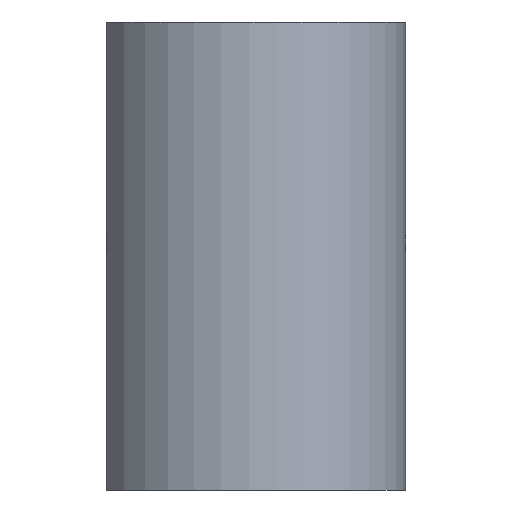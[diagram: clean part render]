
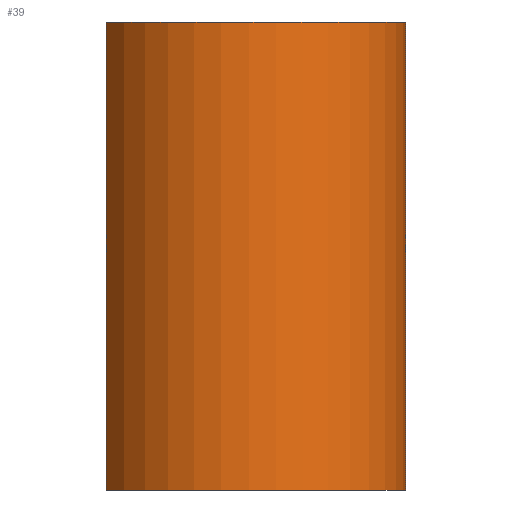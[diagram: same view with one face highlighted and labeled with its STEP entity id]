
A CAD part, left-side view. The second image highlights one B-rep face of the part: STEP entity #39.
In plain terms, the highlighted cylindrical face has radius 3.5 mm (diameter 7 mm), a partial arc.
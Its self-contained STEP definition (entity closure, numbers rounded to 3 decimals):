
#39 = ADVANCED_FACE('',(#40),#55,.T.);
#40 = FACE_BOUND('',#41,.T.);
#41 = EDGE_LOOP('',(#42,#78,#104,#137));
#42 = ORIENTED_EDGE('',*,*,#43,.T.);
#43 = EDGE_CURVE('',#44,#46,#48,.T.);
#44 = VERTEX_POINT('',#45);
#45 = CARTESIAN_POINT('',(-1.96,2.9,0.));
#46 = VERTEX_POINT('',#47);
#47 = CARTESIAN_POINT('',(1.96,2.9,0.));
#48 = SURFACE_CURVE('',#49,(#54,#66),.PCURVE_S1.);
#49 = CIRCLE('',#50,3.5);
#50 = AXIS2_PLACEMENT_3D('',#51,#52,#53);
#51 = CARTESIAN_POINT('',(0.,0.,0.));
#52 = DIRECTION('',(0.,0.,1.));
#53 = DIRECTION('',(-0.56,0.829,0.));
#54 = PCURVE('',#55,#60);
#55 = CYLINDRICAL_SURFACE('',#56,3.5);
#56 = AXIS2_PLACEMENT_3D('',#57,#58,#59);
#57 = CARTESIAN_POINT('',(0.,0.,0.));
#58 = DIRECTION('',(0.,0.,1.));
#59 = DIRECTION('',(1.,0.,-0.));
#60 = DEFINITIONAL_REPRESENTATION('',(#61),#65);
#61 = LINE('',#62,#63);
#62 = CARTESIAN_POINT('',(2.165,0.));
#63 = VECTOR('',#64,1.);
#64 = DIRECTION('',(1.,0.));
#65 = ( GEOMETRIC_REPRESENTATION_CONTEXT(2) 
PARAMETRIC_REPRESENTATION_CONTEXT() REPRESENTATION_CONTEXT('2D SPACE',''
  ) );
#66 = PCURVE('',#67,#72);
#67 = PLANE('',#68);
#68 = AXIS2_PLACEMENT_3D('',#69,#70,#71);
#69 = CARTESIAN_POINT('',(0.,0.,0.));
#70 = DIRECTION('',(0.,0.,1.));
#71 = DIRECTION('',(1.,0.,-0.));
#72 = DEFINITIONAL_REPRESENTATION('',(#73),#77);
#73 = CIRCLE('',#74,3.5);
#74 = AXIS2_PLACEMENT_2D('',#75,#76);
#75 = CARTESIAN_POINT('',(0.,0.));
#76 = DIRECTION('',(-0.56,0.829));
#77 = ( GEOMETRIC_REPRESENTATION_CONTEXT(2) 
PARAMETRIC_REPRESENTATION_CONTEXT() REPRESENTATION_CONTEXT('2D SPACE',''
  ) );
#78 = ORIENTED_EDGE('',*,*,#79,.T.);
#79 = EDGE_CURVE('',#46,#80,#82,.T.);
#80 = VERTEX_POINT('',#81);
#81 = CARTESIAN_POINT('',(1.96,2.9,10.));
#82 = SURFACE_CURVE('',#83,(#87,#93),.PCURVE_S1.);
#83 = LINE('',#84,#85);
#84 = CARTESIAN_POINT('',(1.96,2.9,0.));
#85 = VECTOR('',#86,1.);
#86 = DIRECTION('',(0.,0.,1.));
#87 = PCURVE('',#55,#88);
#88 = DEFINITIONAL_REPRESENTATION('',(#89),#92);
#89 = B_SPLINE_CURVE_WITH_KNOTS('',1,(#90,#91),.UNSPECIFIED.,.F.,.F.,(2,
    2),(0.,10.),.PIECEWISE_BEZIER_KNOTS.);
#90 = CARTESIAN_POINT('',(7.26,0.));
#91 = CARTESIAN_POINT('',(7.26,10.));
#92 = ( GEOMETRIC_REPRESENTATION_CONTEXT(2) 
PARAMETRIC_REPRESENTATION_CONTEXT() REPRESENTATION_CONTEXT('2D SPACE',''
  ) );
#93 = PCURVE('',#94,#99);
#94 = PLANE('',#95);
#95 = AXIS2_PLACEMENT_3D('',#96,#97,#98);
#96 = CARTESIAN_POINT('',(-7.,2.9,-1.));
#97 = DIRECTION('',(-0.,1.,0.));
#98 = DIRECTION('',(0.,0.,1.));
#99 = DEFINITIONAL_REPRESENTATION('',(#100),#103);
#100 = B_SPLINE_CURVE_WITH_KNOTS('',1,(#101,#102),.UNSPECIFIED.,.F.,.F.,
  (2,2),(0.,10.),.PIECEWISE_BEZIER_KNOTS.);
#101 = CARTESIAN_POINT('',(1.,8.96));
#102 = CARTESIAN_POINT('',(11.,8.96));
#103 = ( GEOMETRIC_REPRESENTATION_CONTEXT(2) 
PARAMETRIC_REPRESENTATION_CONTEXT() REPRESENTATION_CONTEXT('2D SPACE',''
  ) );
#104 = ORIENTED_EDGE('',*,*,#105,.T.);
#105 = EDGE_CURVE('',#80,#106,#108,.T.);
#106 = VERTEX_POINT('',#107);
#107 = CARTESIAN_POINT('',(-1.96,2.9,10.));
#108 = SURFACE_CURVE('',#109,(#114,#121),.PCURVE_S1.);
#109 = CIRCLE('',#110,3.5);
#110 = AXIS2_PLACEMENT_3D('',#111,#112,#113);
#111 = CARTESIAN_POINT('',(0.,0.,10.));
#112 = DIRECTION('',(0.,0.,-1.));
#113 = DIRECTION('',(0.56,0.829,0.));
#114 = PCURVE('',#55,#115);
#115 = DEFINITIONAL_REPRESENTATION('',(#116),#120);
#116 = LINE('',#117,#118);
#117 = CARTESIAN_POINT('',(7.26,10.));
#118 = VECTOR('',#119,1.);
#119 = DIRECTION('',(-1.,-0.));
#120 = ( GEOMETRIC_REPRESENTATION_CONTEXT(2) 
PARAMETRIC_REPRESENTATION_CONTEXT() REPRESENTATION_CONTEXT('2D SPACE',''
  ) );
#121 = PCURVE('',#122,#127);
#122 = PLANE('',#123);
#123 = AXIS2_PLACEMENT_3D('',#124,#125,#126);
#124 = CARTESIAN_POINT('',(0.,0.,10.));
#125 = DIRECTION('',(0.,0.,1.));
#126 = DIRECTION('',(1.,0.,-0.));
#127 = DEFINITIONAL_REPRESENTATION('',(#128),#136);
#128 = ( BOUNDED_CURVE() B_SPLINE_CURVE(2,(#129,#130,#131,#132,#133,#134
,#135),.UNSPECIFIED.,.T.,.F.) B_SPLINE_CURVE_WITH_KNOTS((1,2,2,2,2,1),(
    -2.094,0.,2.094,4.189,6.283,
8.378),.UNSPECIFIED.) CURVE() GEOMETRIC_REPRESENTATION_ITEM() 
RATIONAL_B_SPLINE_CURVE((1.,0.5,1.,0.5,1.,0.5,1.)) REPRESENTATION_ITEM(
  '') );
#129 = CARTESIAN_POINT('',(1.96,2.9));
#130 = CARTESIAN_POINT('',(6.983,-0.494));
#131 = CARTESIAN_POINT('',(1.532,-3.147));
#132 = CARTESIAN_POINT('',(-3.919,-5.8));
#133 = CARTESIAN_POINT('',(-3.491,0.247));
#134 = CARTESIAN_POINT('',(-3.063,6.294));
#135 = CARTESIAN_POINT('',(1.96,2.9));
#136 = ( GEOMETRIC_REPRESENTATION_CONTEXT(2) 
PARAMETRIC_REPRESENTATION_CONTEXT() REPRESENTATION_CONTEXT('2D SPACE',''
  ) );
#137 = ORIENTED_EDGE('',*,*,#138,.F.);
#138 = EDGE_CURVE('',#44,#106,#139,.T.);
#139 = SURFACE_CURVE('',#140,(#144,#150),.PCURVE_S1.);
#140 = LINE('',#141,#142);
#141 = CARTESIAN_POINT('',(-1.96,2.9,0.));
#142 = VECTOR('',#143,1.);
#143 = DIRECTION('',(0.,0.,1.));
#144 = PCURVE('',#55,#145);
#145 = DEFINITIONAL_REPRESENTATION('',(#146),#149);
#146 = B_SPLINE_CURVE_WITH_KNOTS('',1,(#147,#148),.UNSPECIFIED.,.F.,.F.,
  (2,2),(0.,10.),.PIECEWISE_BEZIER_KNOTS.);
#147 = CARTESIAN_POINT('',(2.165,0.));
#148 = CARTESIAN_POINT('',(2.165,10.));
#149 = ( GEOMETRIC_REPRESENTATION_CONTEXT(2) 
PARAMETRIC_REPRESENTATION_CONTEXT() REPRESENTATION_CONTEXT('2D SPACE',''
  ) );
#150 = PCURVE('',#94,#151);
#151 = DEFINITIONAL_REPRESENTATION('',(#152),#155);
#152 = B_SPLINE_CURVE_WITH_KNOTS('',1,(#153,#154),.UNSPECIFIED.,.F.,.F.,
  (2,2),(0.,10.),.PIECEWISE_BEZIER_KNOTS.);
#153 = CARTESIAN_POINT('',(1.,5.04));
#154 = CARTESIAN_POINT('',(11.,5.04));
#155 = ( GEOMETRIC_REPRESENTATION_CONTEXT(2) 
PARAMETRIC_REPRESENTATION_CONTEXT() REPRESENTATION_CONTEXT('2D SPACE',''
  ) );
